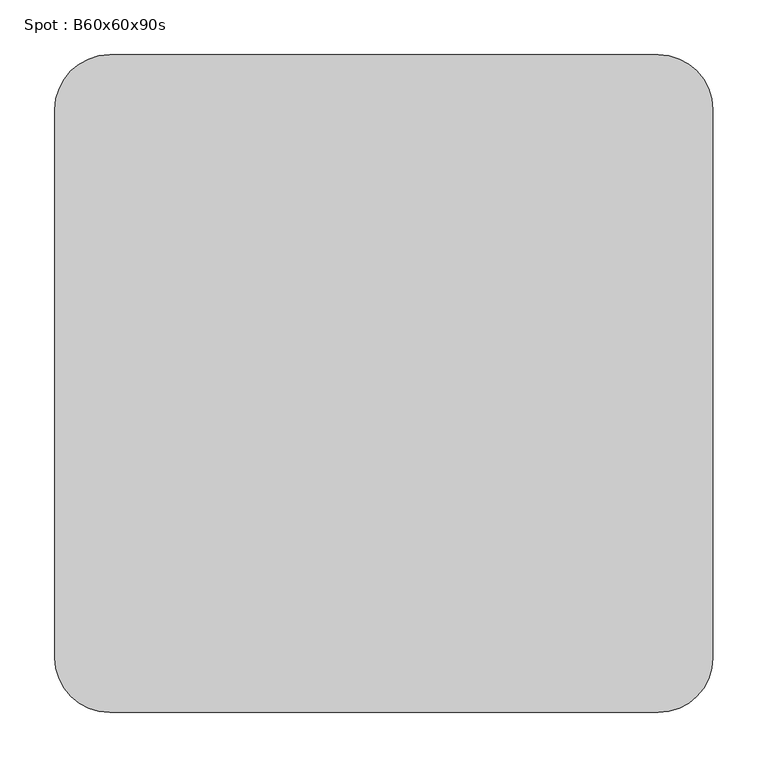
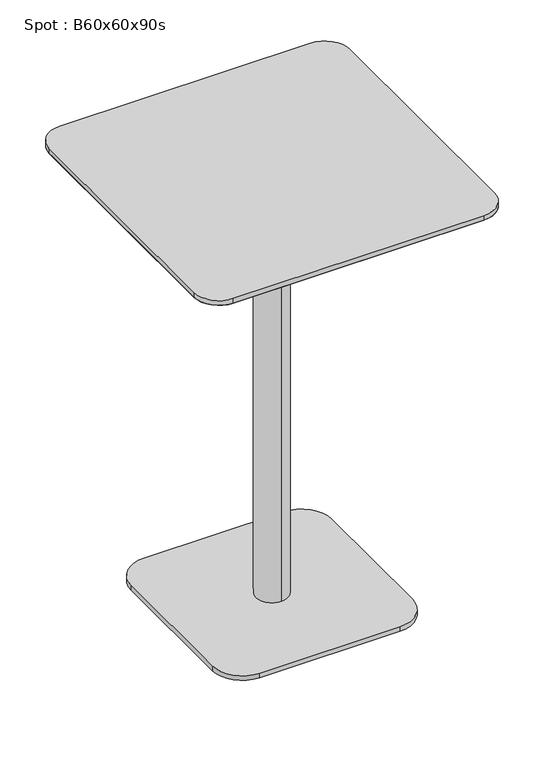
"""IFC4 building model written with IfcOpenShell, lengths in millimetres: furniture geometry, Spot : B60x60x90s."""

from ifc_helpers import new_model, si_unit, point, frame, frame_2d, origin, origin_with_axes, place, context, project, spatial, polyline, circle_curve, trimmed, segment, composite_curve, outline, extrude, source, transform, mapped, element, save
from ifc_brep_helpers import plane_surface, cylinder_surface, revolved_surface, advanced_brep


def spot_b60x60x90s_d0aa6e54(model_context):
    return source(origin(), model_context, "Body", "SolidModel", [
        advanced_brep(
        [(-250.0, -250.0, 878.0), (-250.0, 250.0, 878.0), (250.0, 250.0, 878.0), (250.0, -250.0, 878.0), (-300.0, -250.0, 890.0), (-250.0, -300.0, 890.0), (250.0, -300.0, 890.0), (300.0, -250.0, 890.0), (300.0, 250.0, 890.0), (250.0, 300.0, 890.0), (-250.0, 300.0, 890.0), (-300.0, 250.0, 890.0)],
        [
            (0, 1),
            (1, 2),
            (2, 3),
            (3, 0),
            (4, 5, circle_curve(frame((-250.0, -250.0, 890.0), z_axis=(0.0, 0.0, 1.0), x_axis=(0.0, -1.0, 0.0)), 50.0)),
            (5, 6),
            (6, 7, circle_curve(frame((250.0, -250.0, 890.0), z_axis=(0.0, 0.0, 1.0), x_axis=(1.0, 0.0, 0.0)), 50.0)),
            (7, 8),
            (8, 9, circle_curve(frame((250.0, 250.0, 890.0), z_axis=(0.0, 0.0, 1.0), x_axis=(0.0, 1.0, 0.0)), 50.0)),
            (9, 10),
            (10, 11, circle_curve(frame((-250.0, 250.0, 890.0), z_axis=(0.0, 0.0, 1.0), x_axis=(-1.0, 0.0, 0.0)), 50.0)),
            (11, 4),
            (4, 0),
            (0, 5),
            (3, 6),
            (3, 7),
            (2, 8),
            (2, 9),
            (1, 10),
            (1, 11),
        ],
        [
            plane_surface(frame((0.0, 0.0, 878.0), z_axis=(0.0, 0.0, -1.0), x_axis=(-1.0, 0.0, 0.0))),
            plane_surface(frame((0.0, 0.0, 890.0), z_axis=(0.0, 0.0, 1.0), x_axis=(-1.0, 0.0, 0.0))),
            revolved_surface(polyline([(-250.0, -250.0, 878.0), (-250.0, -300.0, 890.0)]), (-250.0, -250.0, 878.0), (0.0, 0.0, 1.0)),
            plane_surface(frame((0.0, -300.0, 890.0), z_axis=(0.0, -0.23337295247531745, -0.9723873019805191), x_axis=(-1.0, 0.0, 0.0))),
            revolved_surface(polyline([(250.0, -250.0, 878.0), (300.0, -250.0, 890.0)]), (250.0, -250.0, 878.0), (0.0, 0.0, 1.0)),
            plane_surface(frame((300.0, 0.0, 890.0), z_axis=(0.23337295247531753, 0.0, -0.9723873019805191), x_axis=(0.0, -1.0, 0.0))),
            revolved_surface(polyline([(250.0, 250.0, 878.0), (250.0, 300.0, 890.0)]), (250.0, 250.0, 878.0), (0.0, 0.0, 1.0)),
            plane_surface(frame((0.0, 300.0, 890.0), z_axis=(0.0, 0.2333729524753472, -0.9723873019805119), x_axis=(1.0, 0.0, 0.0))),
            revolved_surface(polyline([(-250.0, 250.0, 878.0), (-300.0, 250.0, 890.0)]), (-250.0, 250.0, 878.0), (0.0, 0.0, 1.0)),
            plane_surface(frame((-300.0, 0.0, 890.0), z_axis=(-0.2333729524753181, 0.0, -0.9723873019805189), x_axis=(0.0, 1.0, 0.0))),
        ],
        [
            (0, [[1, 2, 3, 4]]),
            (1, [[5, 6, 7, 8, 9, 10, 11, 12]]),
            (2, [[-5, 13, 14]]),
            (3, [[-6, -14, -4, 15]]),
            (4, [[-7, -15, 16]]),
            (5, [[-8, -16, -3, 17]]),
            (6, [[-9, -17, 18]]),
            (7, [[-10, -18, -2, 19]]),
            (8, [[-11, -19, 20]]),
            (9, [[-12, -20, -1, -13]]),
        ],
    ),
        extrude(outline(composite_curve([segment(trimmed(circle_curve(frame_2d((250.0, 250.0)), 50.0), [point((250.0, 300.0))], [point((300.0, 250.0))], False, "CARTESIAN"), True, "CONTINUOUS"), segment(polyline([(300.0, 250.0), (300.0, -250.0)]), True, "CONTINUOUS"), segment(trimmed(circle_curve(frame_2d((250.0, -250.0)), 50.0), [point((300.0, -250.0))], [point((250.0, -300.0))], False, "CARTESIAN"), True, "CONTINUOUS"), segment(polyline([(250.0, -300.0), (-250.0, -300.0)]), True, "CONTINUOUS"), segment(trimmed(circle_curve(frame_2d((-250.0, -250.0)), 50.0), [point((-250.0, -300.0))], [point((-300.0, -250.0))], False, "CARTESIAN"), True, "CONTINUOUS"), segment(polyline([(-300.0, -250.0), (-300.0, 250.0)]), True, "CONTINUOUS"), segment(trimmed(circle_curve(frame_2d((-250.0, 250.0)), 50.0), [point((-300.0, 250.0))], [point((-250.0, 300.0))], False, "CARTESIAN"), True, "CONTINUOUS"), segment(polyline([(-250.0, 300.0), (250.0, 300.0)]), True, "CONTINUOUS")], self_intersect=False)), frame((0.0, 0.0, 890.0), z_axis=(0.0, 0.0, 1.0), x_axis=(1.0, 0.0, 0.0)), (0.0, 0.0, 1.0), 10.0),
        extrude(outline(composite_curve([segment(trimmed(circle_curve(frame_2d((140.0, 140.0)), 60.0), [point((140.0, 200.0))], [point((200.0, 140.0))], False, "CARTESIAN"), True, "CONTINUOUS"), segment(polyline([(200.0, 140.0), (200.0, -140.0)]), True, "CONTINUOUS"), segment(trimmed(circle_curve(frame_2d((140.0, -140.0)), 60.0), [point((200.0, -140.0))], [point((140.0, -200.0))], False, "CARTESIAN"), True, "CONTINUOUS"), segment(polyline([(140.0, -200.0), (-140.0, -200.0)]), True, "CONTINUOUS"), segment(trimmed(circle_curve(frame_2d((-140.0, -140.0)), 60.0), [point((-140.0, -200.0))], [point((-200.0, -140.0))], False, "CARTESIAN"), True, "CONTINUOUS"), segment(polyline([(-200.0, -140.0), (-200.0, 140.0)]), True, "CONTINUOUS"), segment(trimmed(circle_curve(frame_2d((-140.0, 140.0)), 60.0), [point((-200.0, 140.0))], [point((-140.0, 200.0))], False, "CARTESIAN"), True, "CONTINUOUS"), segment(polyline([(-140.0, 200.0), (140.0, 200.0)]), True, "CONTINUOUS")], self_intersect=False)), origin_with_axes(), (0.0, 0.0, 1.0), 10.0),
        advanced_brep(
        [(0.0, 32.0, 10.0), (0.0, -32.0, 10.0), (0.0, -32.0, 847.406916), (0.0, 32.0, 847.406916), (0.0, 0.0, 10.0), (0.0, 150.0, 878.0), (0.0, -150.0, 878.0), (0.0, 0.0, 878.0), (0.0, 150.0, 866.7213673), (0.0, -150.0, 866.7213673)],
        [
            (0, 1, circle_curve(frame((0.0, 0.0, 10.0), z_axis=(0.0, 0.0, 1.0), x_axis=(0.0, -1.0, 0.0)), 32.0)),
            (1, 2),
            (2, 3, circle_curve(frame((0.0, 0.0, 847.406916), z_axis=(0.0, 0.0, -1.0), x_axis=(0.0, -1.0, 0.0)), 32.0)),
            (3, 0),
            (1, 0, circle_curve(frame((0.0, 0.0, 10.0), z_axis=(0.0, 0.0, 1.0), x_axis=(0.0, -1.0, 0.0)), 32.0)),
            (3, 2, circle_curve(frame((0.0, 0.0, 847.406916), z_axis=(0.0, 0.0, -1.0), x_axis=(0.0, -1.0, 0.0)), 32.0)),
            (4, 1),
            (0, 4),
            (5, 6, circle_curve(frame((0.0, 0.0, 878.0), z_axis=(0.0, 0.0, 1.0), x_axis=(0.0, -1.0, 0.0)), 150.0)),
            (6, 7),
            (7, 5),
            (6, 5, circle_curve(frame((0.0, 0.0, 878.0), z_axis=(0.0, 0.0, 1.0), x_axis=(0.0, -1.0, 0.0)), 150.0)),
            (8, 9, circle_curve(frame((0.0, 0.0, 866.7213673), z_axis=(0.0, 0.0, 1.0), x_axis=(0.0, -1.0, 0.0)), 150.0)),
            (9, 6),
            (5, 8),
            (9, 8, circle_curve(frame((0.0, 0.0, 866.7213673), z_axis=(0.0, 0.0, 1.0), x_axis=(0.0, -1.0, 0.0)), 150.0)),
            (2, 9),
            (8, 3),
        ],
        [
            cylinder_surface(frame((0.0, 0.0, 1240.0), z_axis=(0.0, 0.0, -1.0), x_axis=(0.0, -1.0, 0.0)), 32.0),
            plane_surface(frame((0.0, 0.0, 10.0), z_axis=(0.0, 0.0, -1.0), x_axis=(0.0, -1.0, 0.0))),
            plane_surface(frame((0.0, 0.0, 878.0), z_axis=(0.0, 0.0, 1.0), x_axis=(0.0, -1.0, 0.0))),
            cylinder_surface(frame((0.0, 0.0, 1240.0), z_axis=(0.0, 0.0, -1.0), x_axis=(0.0, -1.0, 0.0)), 150.0),
            revolved_surface(polyline([(0.0, -150.0, 866.7213673), (0.0, -32.0, 847.406916)]), (0.0, 0.0, 1240.0), (0.0, 0.0, -1.0)),
        ],
        [
            (0, [[1, 2, 3, 4]]),
            (0, [[5, -4, 6, -2]]),
            (1, [[7, -1, 8]]),
            (1, [[-8, -5, -7]]),
            (2, [[9, 10, 11]]),
            (2, [[12, -11, -10]]),
            (3, [[13, 14, -9, 15]]),
            (3, [[16, -15, -12, -14]]),
            (4, [[-3, 17, -13, 18]]),
            (4, [[-6, -18, -16, -17]]),
        ],
    ),
        extrude(outline(polyline([(0.0, 0.0), (-20.0, 0.0), (-20.0, 20.0), (0.0, 20.0), (0.0, 0.0)])), origin_with_axes(), (0.0, 0.0, 1.0), 10.0),
    ])


if __name__ == "__main__":
    model = new_model("IFC4")
    model_context = context("Model", 3, world=origin())
    ifc_project = project(units=[si_unit("LENGTHUNIT", "METRE", prefix="MILLI")], contexts=[model_context])
    site = spatial("IfcSite", under=ifc_project)
    building = spatial("IfcBuilding", under=site)
    placement = place(None, origin())
    spot_b60x60x90s_shape = spot_b60x60x90s_d0aa6e54(model_context)
    element("IfcFurniture", 1, ObjectType="Spot : B60x60x90s", at=placement, inside=building, context=model_context, shape_type="MappedRepresentation", body=[
        mapped(spot_b60x60x90s_shape, transform((0.0, 0.0, 0.0), x_axis=(1.0, 0.0, 0.0), y_axis=(0.0, 1.0, 0.0), z_axis=(0.0, 0.0, 1.0))),
    ])
    save(model, "model.ifc")
